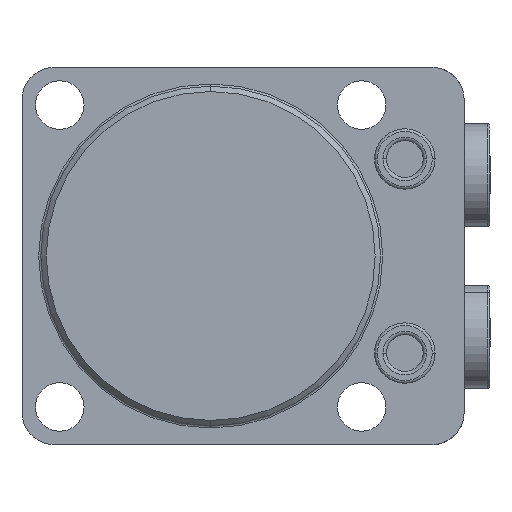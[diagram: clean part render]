
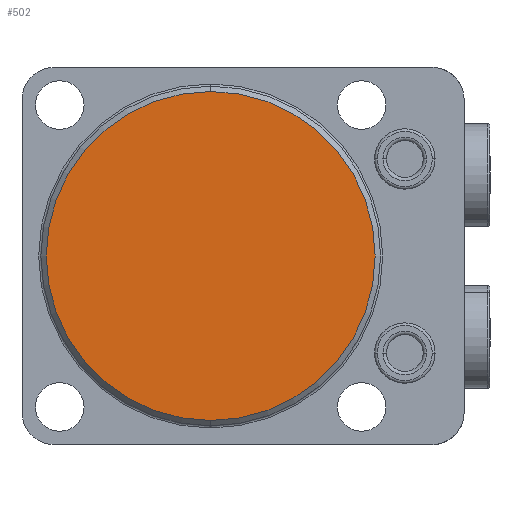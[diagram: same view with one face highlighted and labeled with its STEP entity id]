
A CAD part, front view. The second image highlights one B-rep face of the part: STEP entity #502.
In plain terms, the highlighted planar face has unit normal (0, -1, 0) as drawn and (0, 1, 0) by its records, which use the part's own axes.
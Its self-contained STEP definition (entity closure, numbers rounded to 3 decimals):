
#220=PLANE('',#3308);
#502=ADVANCED_FACE('',(#710),#220,.T.);
#710=FACE_OUTER_BOUND('',#898,.F.);
#898=EDGE_LOOP('',(#1901,#1902));
#1901=ORIENTED_EDGE('',*,*,#2756,.T.);
#1902=ORIENTED_EDGE('',*,*,#2695,.T.);
#2337=VERTEX_POINT('',#5133);
#2338=VERTEX_POINT('',#5134);
#2695=EDGE_CURVE('',#2337,#2338,#2956,.T.);
#2756=EDGE_CURVE('',#2338,#2337,#2978,.T.);
#2956=CIRCLE('',#3272,30.5);
#2978=CIRCLE('',#3307,30.5);
#3272=AXIS2_PLACEMENT_3D('',#5132,#4043,#4044);
#3307=AXIS2_PLACEMENT_3D('',#5262,#4147,#4148);
#3308=AXIS2_PLACEMENT_3D('',#5263,#4149,#4150);
#4043=DIRECTION('',(0.,-1.,0.));
#4044=DIRECTION('',(0.,0.,1.));
#4147=DIRECTION('',(0.,-1.,0.));
#4148=DIRECTION('',(0.,0.,1.));
#4149=DIRECTION('',(0.,1.,0.));
#4150=DIRECTION('',(0.,0.,1.));
#5132=CARTESIAN_POINT('',(0.,0.,0.));
#5133=CARTESIAN_POINT('',(0.,0.,-30.5));
#5134=CARTESIAN_POINT('',(0.,0.,30.5));
#5262=CARTESIAN_POINT('',(0.,0.,0.));
#5263=CARTESIAN_POINT('',(-35.,0.,35.));
